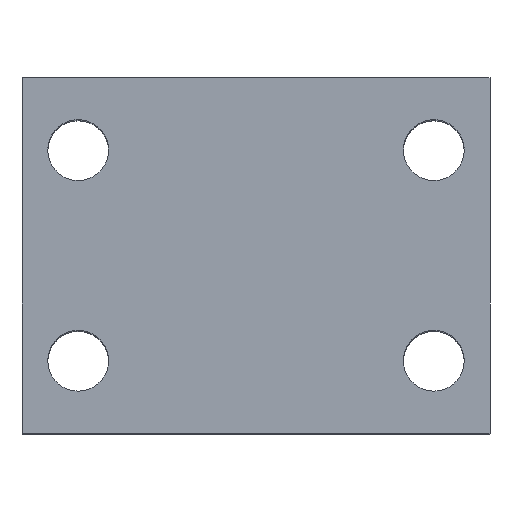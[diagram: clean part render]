
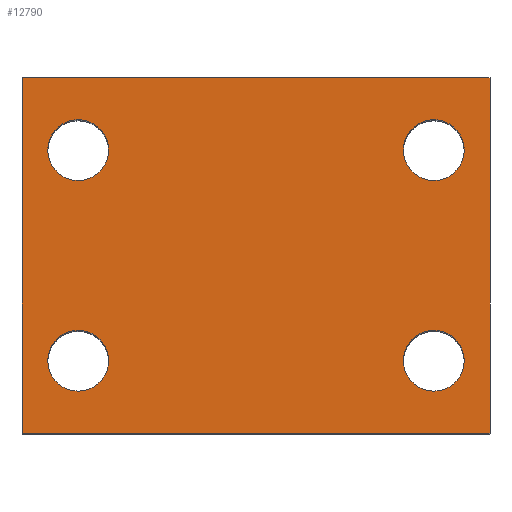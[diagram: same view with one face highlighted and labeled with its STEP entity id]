
A CAD part, top view. The second image highlights one B-rep face of the part: STEP entity #12790.
In plain terms, the highlighted planar face has unit normal (0, 0, 1).
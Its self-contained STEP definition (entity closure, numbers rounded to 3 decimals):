
#157 = EDGE_CURVE ( 'NONE', #14080, #7136, #13931, .T. ) ;
#626 = DIRECTION ( 'NONE',  ( -1., 0., 0. ) ) ;
#651 = EDGE_CURVE ( 'NONE', #6125, #8492, #7534, .T. ) ;
#729 = DIRECTION ( 'NONE',  ( 0., 0., -1. ) ) ;
#812 = ORIENTED_EDGE ( 'NONE', *, *, #11760, .T. ) ;
#1019 = ORIENTED_EDGE ( 'NONE', *, *, #15973, .T. ) ;
#1094 = CARTESIAN_POINT ( 'NONE',  ( 50., 76., 72.5 ) ) ;
#1403 = CARTESIAN_POINT ( 'NONE',  ( -50., 76., 72.5 ) ) ;
#1513 = CIRCLE ( 'NONE', #8077, 6.5 ) ;
#1720 = CARTESIAN_POINT ( 'NONE',  ( -50., 76., 72.5 ) ) ;
#1932 = FACE_BOUND ( 'NONE', #13222, .T. ) ;
#2080 = VECTOR ( 'NONE', #9350, 1000. ) ;
#2095 = DIRECTION ( 'NONE',  ( 0., 0., -1. ) ) ;
#2109 = VERTEX_POINT ( 'NONE', #10940 ) ;
#2312 = CARTESIAN_POINT ( 'NONE',  ( -44.5, 60.5, 72.5 ) ) ;
#2331 = DIRECTION ( 'NONE',  ( 0., 0., -1. ) ) ;
#2358 = DIRECTION ( 'NONE',  ( 0., 0., -1. ) ) ;
#2488 = CARTESIAN_POINT ( 'NONE',  ( 50., 76., 72.5 ) ) ;
#2547 = DIRECTION ( 'NONE',  ( 0., 0., -1. ) ) ;
#2707 = DIRECTION ( 'NONE',  ( -1., 0., 0. ) ) ;
#2877 = VERTEX_POINT ( 'NONE', #4518 ) ;
#2962 = AXIS2_PLACEMENT_3D ( 'NONE', #16326, #8411, #626 ) ;
#3063 = VERTEX_POINT ( 'NONE', #12856 ) ;
#3066 = CARTESIAN_POINT ( 'NONE',  ( -31.5, 15.5, 72.5 ) ) ;
#3397 = VERTEX_POINT ( 'NONE', #11712 ) ;
#3655 = VERTEX_POINT ( 'NONE', #3066 ) ;
#4131 = CARTESIAN_POINT ( 'NONE',  ( -50., 0., 72.5 ) ) ;
#4141 = CARTESIAN_POINT ( 'NONE',  ( 44.5, 60.5, 72.5 ) ) ;
#4472 = CARTESIAN_POINT ( 'NONE',  ( -50., 76., 72.5 ) ) ;
#4518 = CARTESIAN_POINT ( 'NONE',  ( 31.5, 15.5, 72.5 ) ) ;
#4731 = VECTOR ( 'NONE', #8403, 1000. ) ;
#4938 = LINE ( 'NONE', #4131, #8409 ) ;
#5039 = CARTESIAN_POINT ( 'NONE',  ( -38., 15.5, 72.5 ) ) ;
#5092 = EDGE_CURVE ( 'NONE', #2877, #16215, #7284, .T. ) ;
#5685 = ORIENTED_EDGE ( 'NONE', *, *, #13929, .T. ) ;
#5802 = LINE ( 'NONE', #2488, #15877 ) ;
#6006 = DIRECTION ( 'NONE',  ( 0., 0., -1. ) ) ;
#6125 = VERTEX_POINT ( 'NONE', #16964 ) ;
#6259 = ORIENTED_EDGE ( 'NONE', *, *, #14883, .T. ) ;
#6350 = DIRECTION ( 'NONE',  ( -1., 0., 0. ) ) ;
#6367 = CIRCLE ( 'NONE', #9202, 6.5 ) ;
#6660 = VERTEX_POINT ( 'NONE', #1094 ) ;
#6681 = CARTESIAN_POINT ( 'NONE',  ( -31.5, 60.5, 72.5 ) ) ;
#6741 = EDGE_LOOP ( 'NONE', ( #6259, #812 ) ) ;
#6805 = ORIENTED_EDGE ( 'NONE', *, *, #5092, .T. ) ;
#7136 = VERTEX_POINT ( 'NONE', #2312 ) ;
#7284 = CIRCLE ( 'NONE', #16548, 6.5 ) ;
#7315 = ORIENTED_EDGE ( 'NONE', *, *, #15109, .T. ) ;
#7433 = ORIENTED_EDGE ( 'NONE', *, *, #8835, .F. ) ;
#7534 = CIRCLE ( 'NONE', #11546, 6.5 ) ;
#7730 = ORIENTED_EDGE ( 'NONE', *, *, #651, .T. ) ;
#8077 = AXIS2_PLACEMENT_3D ( 'NONE', #9921, #2095, #11241 ) ;
#8205 = LINE ( 'NONE', #4472, #4731 ) ;
#8403 = DIRECTION ( 'NONE',  ( 1., 0., 0. ) ) ;
#8409 = VECTOR ( 'NONE', #13299, 1000. ) ;
#8411 = DIRECTION ( 'NONE',  ( 0., 0., -1. ) ) ;
#8492 = VERTEX_POINT ( 'NONE', #4141 ) ;
#8507 = CARTESIAN_POINT ( 'NONE',  ( 38., 15.5, 72.5 ) ) ;
#8657 = EDGE_LOOP ( 'NONE', ( #14757, #7433, #12901, #1019 ) ) ;
#8835 = EDGE_CURVE ( 'NONE', #6660, #2109, #5802, .T. ) ;
#8848 = FACE_BOUND ( 'NONE', #8962, .T. ) ;
#8962 = EDGE_LOOP ( 'NONE', ( #9332, #14796 ) ) ;
#9031 = PLANE ( 'NONE',  #11392 ) ;
#9202 = AXIS2_PLACEMENT_3D ( 'NONE', #5039, #14219, #6350 ) ;
#9332 = ORIENTED_EDGE ( 'NONE', *, *, #13772, .T. ) ;
#9350 = DIRECTION ( 'NONE',  ( 0., -1., 0. ) ) ;
#9702 = FACE_BOUND ( 'NONE', #6741, .T. ) ;
#9853 = DIRECTION ( 'NONE',  ( -1., 0., 0. ) ) ;
#9921 = CARTESIAN_POINT ( 'NONE',  ( -38., 60.5, 72.5 ) ) ;
#10157 = CARTESIAN_POINT ( 'NONE',  ( -38., 60.5, 72.5 ) ) ;
#10193 = CARTESIAN_POINT ( 'NONE',  ( 38., 60.5, 72.5 ) ) ;
#10296 = CIRCLE ( 'NONE', #12517, 6.5 ) ;
#10379 = CARTESIAN_POINT ( 'NONE',  ( 38., 15.5, 72.5 ) ) ;
#10742 = EDGE_CURVE ( 'NONE', #11666, #2109, #4938, .T. ) ;
#10940 = CARTESIAN_POINT ( 'NONE',  ( 50., 0., 72.5 ) ) ;
#11241 = DIRECTION ( 'NONE',  ( -1., 0., 0. ) ) ;
#11392 = AXIS2_PLACEMENT_3D ( 'NONE', #1403, #16939, #2707 ) ;
#11491 = DIRECTION ( 'NONE',  ( -1., 0., 0. ) ) ;
#11524 = DIRECTION ( 'NONE',  ( -1., 0., 0. ) ) ;
#11546 = AXIS2_PLACEMENT_3D ( 'NONE', #13858, #6006, #15195 ) ;
#11666 = VERTEX_POINT ( 'NONE', #14753 ) ;
#11695 = LINE ( 'NONE', #1720, #2080 ) ;
#11701 = DIRECTION ( 'NONE',  ( -1., 0., 0. ) ) ;
#11712 = CARTESIAN_POINT ( 'NONE',  ( -44.5, 15.5, 72.5 ) ) ;
#11760 = EDGE_CURVE ( 'NONE', #3655, #3397, #16853, .T. ) ;
#12517 = AXIS2_PLACEMENT_3D ( 'NONE', #10193, #2358, #11524 ) ;
#12790 = ADVANCED_FACE ( 'NONE', ( #8848, #9702, #15458, #1932, #15882 ), #9031, .F. ) ;
#12856 = CARTESIAN_POINT ( 'NONE',  ( -50., 76., 72.5 ) ) ;
#12901 = ORIENTED_EDGE ( 'NONE', *, *, #16491, .F. ) ;
#13222 = EDGE_LOOP ( 'NONE', ( #7730, #5685 ) ) ;
#13299 = DIRECTION ( 'NONE',  ( 1., 0., 0. ) ) ;
#13772 = EDGE_CURVE ( 'NONE', #7136, #14080, #1513, .T. ) ;
#13858 = CARTESIAN_POINT ( 'NONE',  ( 38., 60.5, 72.5 ) ) ;
#13929 = EDGE_CURVE ( 'NONE', #8492, #6125, #10296, .T. ) ;
#13931 = CIRCLE ( 'NONE', #14516, 6.5 ) ;
#14080 = VERTEX_POINT ( 'NONE', #6681 ) ;
#14219 = DIRECTION ( 'NONE',  ( 0., 0., -1. ) ) ;
#14516 = AXIS2_PLACEMENT_3D ( 'NONE', #10157, #2331, #11491 ) ;
#14525 = EDGE_LOOP ( 'NONE', ( #6805, #7315 ) ) ;
#14753 = CARTESIAN_POINT ( 'NONE',  ( -50., 0., 72.5 ) ) ;
#14757 = ORIENTED_EDGE ( 'NONE', *, *, #10742, .T. ) ;
#14796 = ORIENTED_EDGE ( 'NONE', *, *, #157, .T. ) ;
#14883 = EDGE_CURVE ( 'NONE', #3397, #3655, #6367, .T. ) ;
#15109 = EDGE_CURVE ( 'NONE', #16215, #2877, #15214, .T. ) ;
#15195 = DIRECTION ( 'NONE',  ( -1., 0., 0. ) ) ;
#15214 = CIRCLE ( 'NONE', #16287, 6.5 ) ;
#15458 = FACE_BOUND ( 'NONE', #14525, .T. ) ;
#15623 = DIRECTION ( 'NONE',  ( 0., -1., 0. ) ) ;
#15877 = VECTOR ( 'NONE', #15623, 1000. ) ;
#15882 = FACE_OUTER_BOUND ( 'NONE', #8657, .T. ) ;
#15973 = EDGE_CURVE ( 'NONE', #3063, #11666, #11695, .T. ) ;
#16215 = VERTEX_POINT ( 'NONE', #16771 ) ;
#16287 = AXIS2_PLACEMENT_3D ( 'NONE', #8507, #729, #9853 ) ;
#16326 = CARTESIAN_POINT ( 'NONE',  ( -38., 15.5, 72.5 ) ) ;
#16491 = EDGE_CURVE ( 'NONE', #3063, #6660, #8205, .T. ) ;
#16548 = AXIS2_PLACEMENT_3D ( 'NONE', #10379, #2547, #11701 ) ;
#16771 = CARTESIAN_POINT ( 'NONE',  ( 44.5, 15.5, 72.5 ) ) ;
#16853 = CIRCLE ( 'NONE', #2962, 6.5 ) ;
#16939 = DIRECTION ( 'NONE',  ( 0., 0., -1. ) ) ;
#16964 = CARTESIAN_POINT ( 'NONE',  ( 31.5, 60.5, 72.5 ) ) ;
